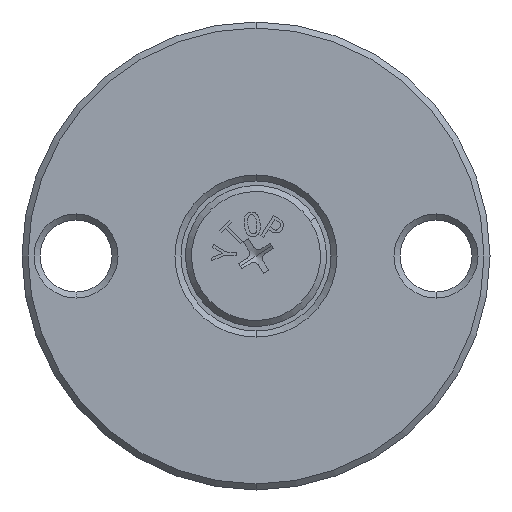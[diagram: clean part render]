
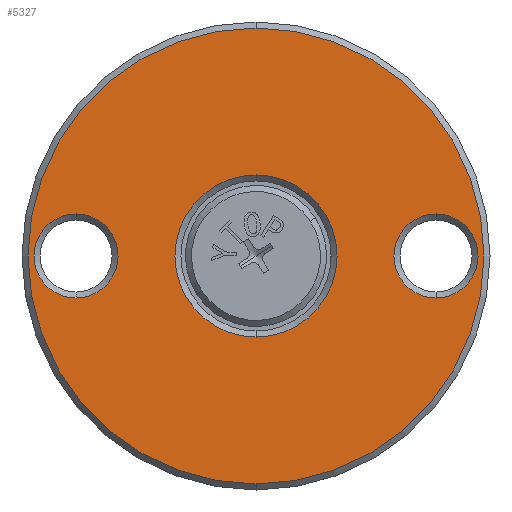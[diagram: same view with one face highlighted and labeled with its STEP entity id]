
A CAD part, front view. The second image highlights one B-rep face of the part: STEP entity #5327.
In plain terms, the highlighted planar face has unit normal (0, -1, 0).
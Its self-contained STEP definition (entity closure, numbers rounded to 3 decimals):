
#7 = AXIS2_PLACEMENT_3D ( 'NONE', #4389, #7598, #4986 ) ;
#28 = EDGE_LOOP ( 'NONE', ( #6337, #6398 ) ) ;
#57 = EDGE_CURVE ( 'NONE', #1535, #7176, #3544, .T. ) ;
#161 = EDGE_CURVE ( 'NONE', #6902, #6434, #8378, .T. ) ;
#265 = FACE_BOUND ( 'NONE', #3162, .T. ) ;
#434 = CIRCLE ( 'NONE', #6185, 7. ) ;
#474 = AXIS2_PLACEMENT_3D ( 'NONE', #8306, #6959, #4388 ) ;
#670 = CIRCLE ( 'NONE', #1767, 7. ) ;
#789 = AXIS2_PLACEMENT_3D ( 'NONE', #5335, #4008, #1462 ) ;
#959 = CARTESIAN_POINT ( 'NONE',  ( 0., 0., 0. ) ) ;
#1347 = EDGE_CURVE ( 'NONE', #3562, #7213, #2386, .T. ) ;
#1462 = DIRECTION ( 'NONE',  ( 0., 0., 1. ) ) ;
#1535 = VERTEX_POINT ( 'NONE', #4054 ) ;
#1651 = VERTEX_POINT ( 'NONE', #6670 ) ;
#1736 = ORIENTED_EDGE ( 'NONE', *, *, #161, .T. ) ;
#1767 = AXIS2_PLACEMENT_3D ( 'NONE', #2009, #6515, #7862 ) ;
#1932 = CARTESIAN_POINT ( 'NONE',  ( 0., 0., 13.5 ) ) ;
#2009 = CARTESIAN_POINT ( 'NONE',  ( 30., 0., 0. ) ) ;
#2073 = CARTESIAN_POINT ( 'NONE',  ( -30., 0., 0. ) ) ;
#2084 = CIRCLE ( 'NONE', #474, 38. ) ;
#2255 = ORIENTED_EDGE ( 'NONE', *, *, #3378, .T. ) ;
#2386 = CIRCLE ( 'NONE', #8253, 38. ) ;
#2568 = DIRECTION ( 'NONE',  ( 0., 1., 0. ) ) ;
#2646 = CARTESIAN_POINT ( 'NONE',  ( 30., 0., 0. ) ) ;
#2724 = EDGE_LOOP ( 'NONE', ( #1736, #8328 ) ) ;
#2811 = DIRECTION ( 'NONE',  ( 0., 0., 1. ) ) ;
#2845 = CIRCLE ( 'NONE', #6895, 13.5 ) ;
#3022 = ORIENTED_EDGE ( 'NONE', *, *, #57, .T. ) ;
#3047 = ORIENTED_EDGE ( 'NONE', *, *, #7920, .T. ) ;
#3162 = EDGE_LOOP ( 'NONE', ( #2255, #4354 ) ) ;
#3186 = CARTESIAN_POINT ( 'NONE',  ( 0., 0., -13.5 ) ) ;
#3254 = DIRECTION ( 'NONE',  ( 0., 0., 1. ) ) ;
#3378 = EDGE_CURVE ( 'NONE', #5370, #1651, #670, .T. ) ;
#3494 = DIRECTION ( 'NONE',  ( 0., 1., 0. ) ) ;
#3544 = CIRCLE ( 'NONE', #7, 7. ) ;
#3549 = PLANE ( 'NONE',  #5474 ) ;
#3562 = VERTEX_POINT ( 'NONE', #6072 ) ;
#3683 = EDGE_CURVE ( 'NONE', #7213, #3562, #2084, .T. ) ;
#3876 = FACE_OUTER_BOUND ( 'NONE', #28, .T. ) ;
#3878 = DIRECTION ( 'NONE',  ( 0., 1., 0. ) ) ;
#4008 = DIRECTION ( 'NONE',  ( 0., 1., 0. ) ) ;
#4042 = AXIS2_PLACEMENT_3D ( 'NONE', #2073, #3878, #3254 ) ;
#4054 = CARTESIAN_POINT ( 'NONE',  ( -30., 0., -7. ) ) ;
#4097 = DIRECTION ( 'NONE',  ( 0., 0., 1. ) ) ;
#4354 = ORIENTED_EDGE ( 'NONE', *, *, #8190, .T. ) ;
#4388 = DIRECTION ( 'NONE',  ( 0., 0., 1. ) ) ;
#4389 = CARTESIAN_POINT ( 'NONE',  ( -30., 0., 0. ) ) ;
#4741 = EDGE_LOOP ( 'NONE', ( #3022, #3047 ) ) ;
#4825 = CARTESIAN_POINT ( 'NONE',  ( -30., 0., 7. ) ) ;
#4986 = DIRECTION ( 'NONE',  ( 0., 0., 1. ) ) ;
#5178 = FACE_BOUND ( 'NONE', #2724, .T. ) ;
#5327 = ADVANCED_FACE ( 'NONE', ( #265, #6892, #3876, #5178 ), #3549, .F. ) ;
#5335 = CARTESIAN_POINT ( 'NONE',  ( 0., 0., 0. ) ) ;
#5370 = VERTEX_POINT ( 'NONE', #5508 ) ;
#5474 = AXIS2_PLACEMENT_3D ( 'NONE', #6745, #3494, #4097 ) ;
#5508 = CARTESIAN_POINT ( 'NONE',  ( 30., 0., -7. ) ) ;
#5843 = CIRCLE ( 'NONE', #4042, 7. ) ;
#5915 = DIRECTION ( 'NONE',  ( 0., 0., 1. ) ) ;
#6072 = CARTESIAN_POINT ( 'NONE',  ( 0., 0., -38. ) ) ;
#6185 = AXIS2_PLACEMENT_3D ( 'NONE', #2646, #6533, #5915 ) ;
#6216 = CARTESIAN_POINT ( 'NONE',  ( 0., 0., 38. ) ) ;
#6337 = ORIENTED_EDGE ( 'NONE', *, *, #3683, .T. ) ;
#6398 = ORIENTED_EDGE ( 'NONE', *, *, #1347, .T. ) ;
#6425 = CARTESIAN_POINT ( 'NONE',  ( 0., 0., 0. ) ) ;
#6434 = VERTEX_POINT ( 'NONE', #1932 ) ;
#6515 = DIRECTION ( 'NONE',  ( 0., 1., 0. ) ) ;
#6533 = DIRECTION ( 'NONE',  ( 0., 1., 0. ) ) ;
#6670 = CARTESIAN_POINT ( 'NONE',  ( 30., 0., 7. ) ) ;
#6745 = CARTESIAN_POINT ( 'NONE',  ( 39., 0., 0. ) ) ;
#6892 = FACE_BOUND ( 'NONE', #4741, .T. ) ;
#6895 = AXIS2_PLACEMENT_3D ( 'NONE', #6425, #2568, #7609 ) ;
#6902 = VERTEX_POINT ( 'NONE', #3186 ) ;
#6959 = DIRECTION ( 'NONE',  ( 0., -1., 0. ) ) ;
#7176 = VERTEX_POINT ( 'NONE', #4825 ) ;
#7213 = VERTEX_POINT ( 'NONE', #6216 ) ;
#7598 = DIRECTION ( 'NONE',  ( 0., 1., 0. ) ) ;
#7609 = DIRECTION ( 'NONE',  ( 0., 0., 1. ) ) ;
#7798 = EDGE_CURVE ( 'NONE', #6434, #6902, #2845, .T. ) ;
#7862 = DIRECTION ( 'NONE',  ( 0., 0., 1. ) ) ;
#7920 = EDGE_CURVE ( 'NONE', #7176, #1535, #5843, .T. ) ;
#7982 = DIRECTION ( 'NONE',  ( 0., -1., 0. ) ) ;
#8190 = EDGE_CURVE ( 'NONE', #1651, #5370, #434, .T. ) ;
#8253 = AXIS2_PLACEMENT_3D ( 'NONE', #959, #7982, #2811 ) ;
#8306 = CARTESIAN_POINT ( 'NONE',  ( 0., 0., 0. ) ) ;
#8328 = ORIENTED_EDGE ( 'NONE', *, *, #7798, .T. ) ;
#8378 = CIRCLE ( 'NONE', #789, 13.5 ) ;
